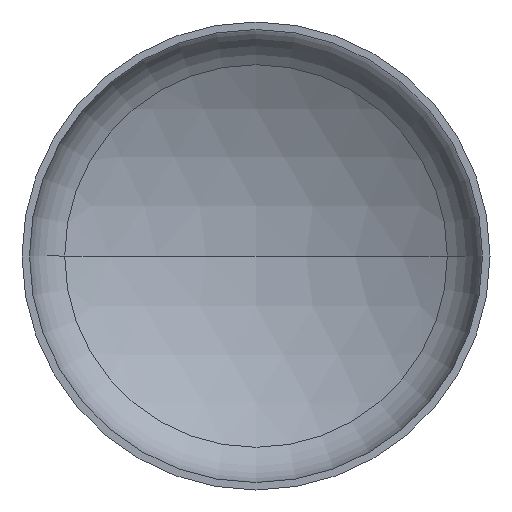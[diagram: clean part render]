
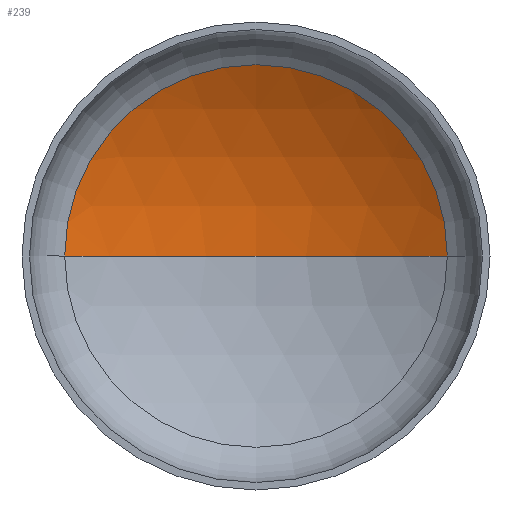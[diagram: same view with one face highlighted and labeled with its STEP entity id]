
A CAD part, front view. The second image highlights one B-rep face of the part: STEP entity #239.
In plain terms, the highlighted spherical face has radius 5200 mm.
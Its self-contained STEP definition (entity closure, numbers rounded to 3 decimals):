
#6 = DIRECTION ( 'NONE',  ( 0., 0., -1. ) ) ;
#14 = CARTESIAN_POINT ( 'NONE',  ( -2656.952, 934.609, 0. ) ) ;
#21 = AXIS2_PLACEMENT_3D ( 'NONE', #126, #6, #118 ) ;
#39 = AXIS2_PLACEMENT_3D ( 'NONE', #161, #151, #150 ) ;
#41 = AXIS2_PLACEMENT_3D ( 'NONE', #262, #253, #250 ) ;
#44 = AXIS2_PLACEMENT_3D ( 'NONE', #248, #247, #125 ) ;
#76 = EDGE_CURVE ( 'NONE', #333, #230, #244, .T. ) ;
#78 = EDGE_CURVE ( 'NONE', #215, #333, #175, .T. ) ;
#81 = EDGE_CURVE ( 'NONE', #215, #230, #388, .T. ) ;
#118 = DIRECTION ( 'NONE',  ( -1., 0., 0. ) ) ;
#125 = DIRECTION ( 'NONE',  ( 1., 0., 0. ) ) ;
#126 = CARTESIAN_POINT ( 'NONE',  ( 0., -3535.358, 0. ) ) ;
#148 = FACE_OUTER_BOUND ( 'NONE', #301, .T. ) ;
#150 = DIRECTION ( 'NONE',  ( 1., 0., 0. ) ) ;
#151 = DIRECTION ( 'NONE',  ( 0., 0., 1. ) ) ;
#161 = CARTESIAN_POINT ( 'NONE',  ( 0., -3535.358, 0. ) ) ;
#175 = CIRCLE ( 'NONE', #41, 5200. ) ;
#188 = ORIENTED_EDGE ( 'NONE', *, *, #78, .T. ) ;
#192 = CARTESIAN_POINT ( 'NONE',  ( 0., 1664.642, 0. ) ) ;
#215 = VERTEX_POINT ( 'NONE', #192 ) ;
#216 = SPHERICAL_SURFACE ( 'NONE', #21, 5200. ) ;
#230 = VERTEX_POINT ( 'NONE', #14 ) ;
#239 = ADVANCED_FACE ( 'NONE', ( #148 ), #216, .F. ) ;
#244 = CIRCLE ( 'NONE', #44, 2656.952 ) ;
#247 = DIRECTION ( 'NONE',  ( 0., -1., 0. ) ) ;
#248 = CARTESIAN_POINT ( 'NONE',  ( 0., 934.609, 0. ) ) ;
#250 = DIRECTION ( 'NONE',  ( -1., 0., 0. ) ) ;
#253 = DIRECTION ( 'NONE',  ( 0., 0., -1. ) ) ;
#262 = CARTESIAN_POINT ( 'NONE',  ( 0., -3535.358, 0. ) ) ;
#301 = EDGE_LOOP ( 'NONE', ( #305, #188, #317 ) ) ;
#305 = ORIENTED_EDGE ( 'NONE', *, *, #81, .F. ) ;
#317 = ORIENTED_EDGE ( 'NONE', *, *, #76, .T. ) ;
#333 = VERTEX_POINT ( 'NONE', #394 ) ;
#388 = CIRCLE ( 'NONE', #39, 5200. ) ;
#394 = CARTESIAN_POINT ( 'NONE',  ( 2656.952, 934.609, 0. ) ) ;
